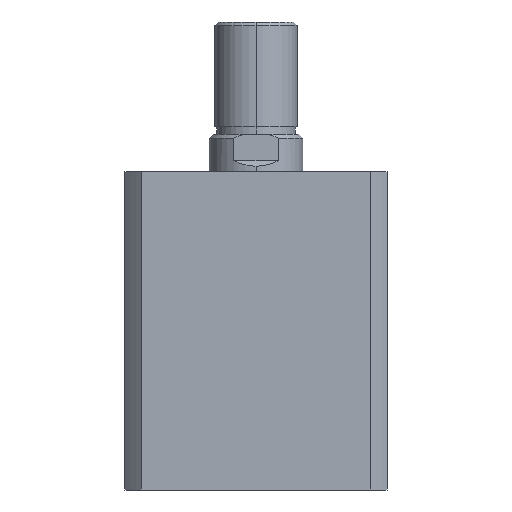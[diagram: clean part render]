
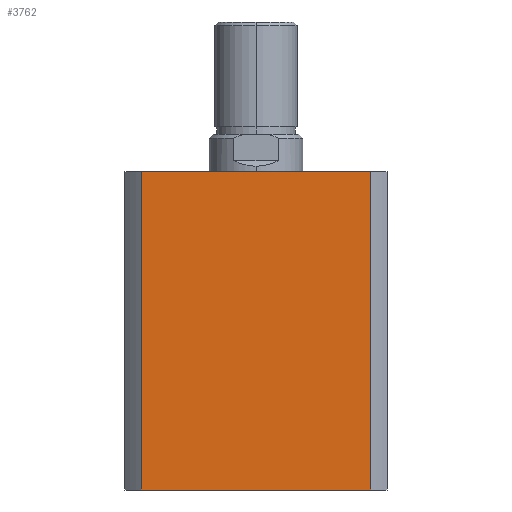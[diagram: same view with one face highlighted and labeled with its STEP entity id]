
A CAD part, left-side view. The second image highlights one B-rep face of the part: STEP entity #3762.
In plain terms, the highlighted planar face has unit normal (-1, 0, 0).
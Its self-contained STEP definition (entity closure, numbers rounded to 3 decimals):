
#367 = AXIS2_PLACEMENT_3D ( 'NONE', #1313, #1318, #1319 ) ;
#463 = VERTEX_POINT ( 'NONE', #4319 ) ;
#522 = EDGE_LOOP ( 'NONE', ( #962, #961, #960, #959 ) ) ;
#569 = VERTEX_POINT ( 'NONE', #4145 ) ;
#699 = FACE_OUTER_BOUND ( 'NONE', #522, .T. ) ;
#959 = ORIENTED_EDGE ( 'NONE', *, *, #2081, .T. ) ;
#960 = ORIENTED_EDGE ( 'NONE', *, *, #2157, .F. ) ;
#961 = ORIENTED_EDGE ( 'NONE', *, *, #2158, .F. ) ;
#962 = ORIENTED_EDGE ( 'NONE', *, *, #2068, .T. ) ;
#1313 = CARTESIAN_POINT ( 'NONE',  ( -35., 0., 85. ) ) ;
#1315 = PLANE ( 'NONE',  #367 ) ;
#1318 = DIRECTION ( 'NONE',  ( 1., 0., 0. ) ) ;
#1319 = DIRECTION ( 'NONE',  ( 0., 1., 0. ) ) ;
#2068 = EDGE_CURVE ( 'NONE', #4884, #4854, #2533, .T. ) ;
#2081 = EDGE_CURVE ( 'NONE', #569, #4884, #2517, .T. ) ;
#2157 = EDGE_CURVE ( 'NONE', #569, #463, #2408, .T. ) ;
#2158 = EDGE_CURVE ( 'NONE', #463, #4854, #2406, .T. ) ;
#2403 = VECTOR ( 'NONE', #2699, 1000. ) ;
#2405 = VECTOR ( 'NONE', #2697, 1000. ) ;
#2406 = LINE ( 'NONE', #2698, #2403 ) ;
#2408 = LINE ( 'NONE', #2696, #2405 ) ;
#2515 = VECTOR ( 'NONE', #4384, 1000. ) ;
#2517 = LINE ( 'NONE', #4402, #2515 ) ;
#2528 = VECTOR ( 'NONE', #4442, 1000. ) ;
#2533 = LINE ( 'NONE', #4423, #2528 ) ;
#2696 = CARTESIAN_POINT ( 'NONE',  ( -35., 0., 85. ) ) ;
#2697 = DIRECTION ( 'NONE',  ( 0., -1., 0. ) ) ;
#2698 = CARTESIAN_POINT ( 'NONE',  ( -35., -30.615, 85. ) ) ;
#2699 = DIRECTION ( 'NONE',  ( 0., 0., -1. ) ) ;
#3762 = ADVANCED_FACE ( 'NONE', ( #699 ), #1315, .F. ) ;
#4145 = CARTESIAN_POINT ( 'NONE',  ( -35., 30.615, 85. ) ) ;
#4319 = CARTESIAN_POINT ( 'NONE',  ( -35., -30.615, 85. ) ) ;
#4384 = DIRECTION ( 'NONE',  ( 0., 0., -1. ) ) ;
#4402 = CARTESIAN_POINT ( 'NONE',  ( -35., 30.615, 85. ) ) ;
#4423 = CARTESIAN_POINT ( 'NONE',  ( -35., 0., 0. ) ) ;
#4442 = DIRECTION ( 'NONE',  ( 0., -1., 0. ) ) ;
#4854 = VERTEX_POINT ( 'NONE', #4990 ) ;
#4884 = VERTEX_POINT ( 'NONE', #5020 ) ;
#4990 = CARTESIAN_POINT ( 'NONE',  ( -35., -30.615, 0. ) ) ;
#5020 = CARTESIAN_POINT ( 'NONE',  ( -35., 30.615, 0. ) ) ;
